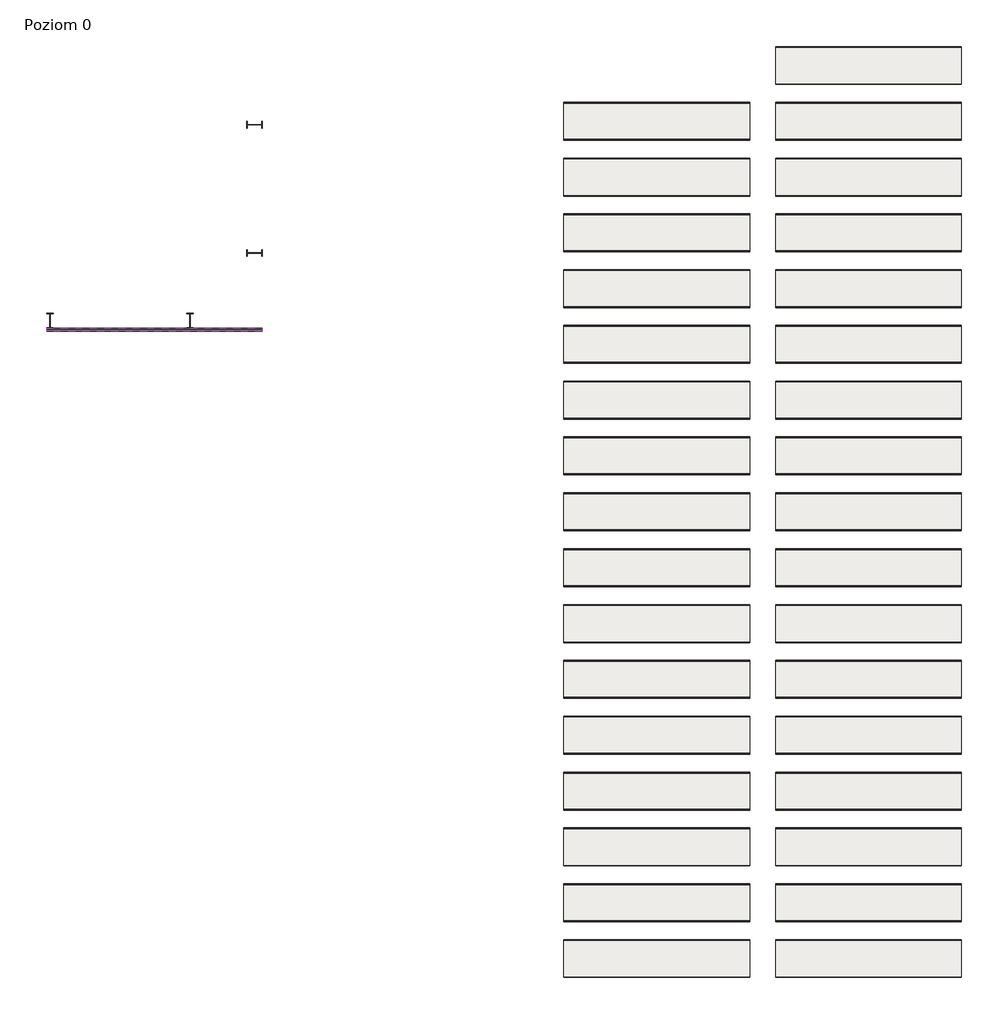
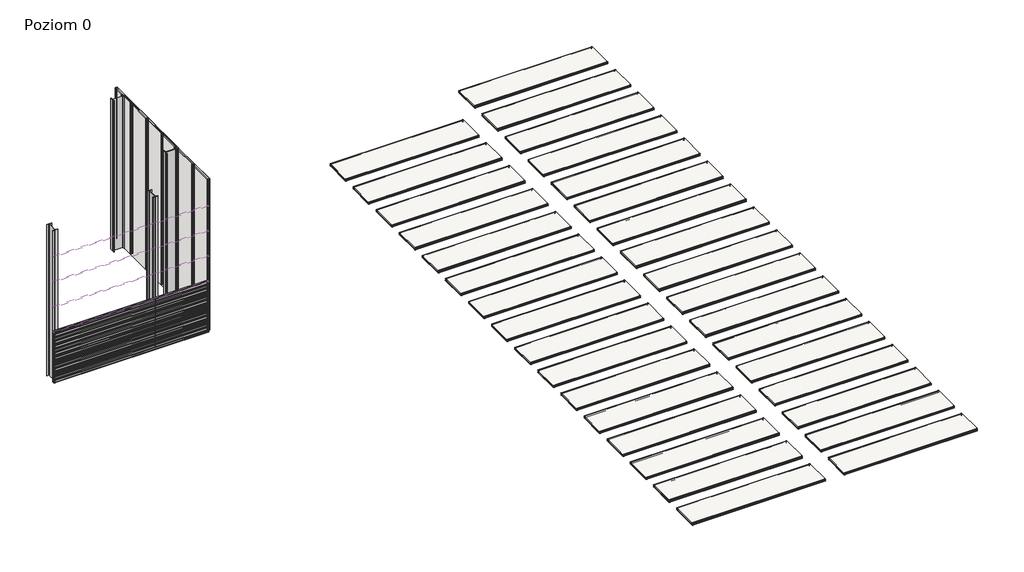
# One storey: 45 coverings, 4 columns.
"""IFC4 building model written with IfcOpenShell, lengths in millimetres."""

from ifc_helpers import new_model, si_unit, origin, place, context, project, spatial, transform, mapped, element, save
from components import standard1_standard_8d04f7a0, covering_0c5716a9, covering_6310a69d, covering_82a8a973, covering_66d02bca

model = new_model("IFC4")

# Units and contexts
model_context = context("Model", 3, world=origin())
ifc_project = project(units=[si_unit("LENGTHUNIT", "METRE", prefix="MILLI")], contexts=[model_context])

# Site, building, storey
site = spatial("IfcSite", under=ifc_project)
building = spatial("IfcBuilding", under=site)
storey = spatial("IfcBuildingStorey", under=building, Name="Poziom 0", Elevation=0.0)

# Columns
placement = place(None, origin())
standard1_standard_shape = standard1_standard_8d04f7a0(model_context)
element("IfcColumn", 1, ObjectType="Standard1 : Standard", at=placement, inside=storey, context=model_context, shape_type="MappedRepresentation", body=[
    mapped(standard1_standard_shape, transform((-652.7962443, -4043.6992704, 0.0), x_axis=(0.0, 1.0, 0.0), y_axis=(-1.0, 0.0, 0.0), z_axis=(0.0, 0.0, 1.0))),
])
element("IfcColumn", 2, ObjectType="Standard1 : Standard", at=placement, inside=storey, context=model_context, shape_type="MappedRepresentation", body=[
    mapped(standard1_standard_shape, transform((-652.7962443, -7493.6992704, 0.0), x_axis=(0.0, 1.0, 0.0), y_axis=(-1.0, 0.0, 0.0), z_axis=(0.0, 0.0, 1.0))),
])
element("IfcColumn", 3, ObjectType="Standard1 : Standard", at=placement, inside=storey, context=model_context, shape_type="MappedRepresentation", body=[
    mapped(standard1_standard_shape, transform((-6157.3962443, -9313.0059697, 0.0), x_axis=(1.0, 0.0, 0.0), y_axis=(0.0, 1.0, 0.0), z_axis=(0.0, 0.0, 1.0))),
])
element("IfcColumn", 4, ObjectType="Standard1 : Standard", at=placement, inside=storey, context=model_context, shape_type="MappedRepresentation", body=[
    mapped(standard1_standard_shape, transform((-2391.8962443, -9313.0059697, 0.0), x_axis=(1.0, 0.0, 0.0), y_axis=(0.0, 1.0, 0.0), z_axis=(0.0, 0.0, 1.0))),
])

# Coverings
covering_shape = covering_0c5716a9(model_context)
covering_2_shape = covering_6310a69d(model_context)
element("IfcCovering", 5, ObjectType="Płyta warstwowa ścienna SPW-S CORE WOOL (pojedynczy arkusz) : -", at=placement, inside=storey, context=model_context, shape_type="MappedRepresentation", body=[
    mapped(covering_shape, transform((-6246.8962443, -9598.9059697, 1035.0), x_axis=(0.0, 0.0, 1.0), y_axis=(-1.0, 0.0, 0.0), z_axis=(0.0, -1.0, 0.0))),
    mapped(covering_2_shape, transform((-6246.8962443, -9598.9059697, 1035.0), x_axis=(0.0, 0.0, 1.0), y_axis=(-1.0, 0.0, 0.0), z_axis=(0.0, -1.0, 0.0))),
])
element("IfcCovering", 6, ObjectType="Płyta warstwowa ścienna SPW-S CORE WOOL (pojedynczy arkusz) : -", at=placement, inside=storey, context=model_context, shape_type="MappedRepresentation", body=[
    mapped(covering_shape, transform((-6246.8962443, -9598.9059697, 2035.0), x_axis=(0.0, 0.0, 1.0), y_axis=(-1.0, 0.0, 0.0), z_axis=(0.0, -1.0, 0.0))),
    mapped(covering_2_shape, transform((-6246.8962443, -9598.9059697, 2035.0), x_axis=(0.0, 0.0, 1.0), y_axis=(-1.0, 0.0, 0.0), z_axis=(0.0, -1.0, 0.0))),
])
element("IfcCovering", 7, ObjectType="Płyta warstwowa ścienna SPW-S CORE WOOL (pojedynczy arkusz) : -", at=placement, inside=storey, context=model_context, shape_type="MappedRepresentation", body=[
    mapped(covering_shape, transform((-6246.8962443, -9598.9059697, 3035.0), x_axis=(0.0, 0.0, 1.0), y_axis=(-1.0, 0.0, 0.0), z_axis=(0.0, -1.0, 0.0))),
    mapped(covering_2_shape, transform((-6246.8962443, -9598.9059697, 3035.0), x_axis=(0.0, 0.0, 1.0), y_axis=(-1.0, 0.0, 0.0), z_axis=(0.0, -1.0, 0.0))),
])
element("IfcCovering", 8, ObjectType="Płyta warstwowa ścienna SPW-S CORE WOOL (pojedynczy arkusz) : -", at=placement, inside=storey, context=model_context, shape_type="MappedRepresentation", body=[
    mapped(covering_shape, transform((-6246.8962443, -9598.9059697, 4035.0), x_axis=(0.0, 0.0, 1.0), y_axis=(-1.0, 0.0, 0.0), z_axis=(0.0, -1.0, 0.0))),
    mapped(covering_2_shape, transform((-6246.8962443, -9598.9059697, 4035.0), x_axis=(0.0, 0.0, 1.0), y_axis=(-1.0, 0.0, 0.0), z_axis=(0.0, -1.0, 0.0))),
])
element("IfcCovering", 9, ObjectType="Płyta warstwowa ścienna SPW-S CORE WOOL (pojedynczy arkusz) : -", at=placement, inside=storey, context=model_context, shape_type="MappedRepresentation", body=[
    mapped(covering_shape, transform((-6246.8962443, -9598.9059697, 5035.0), x_axis=(0.0, 0.0, 1.0), y_axis=(-1.0, 0.0, 0.0), z_axis=(0.0, -1.0, 0.0))),
    mapped(covering_2_shape, transform((-6246.8962443, -9598.9059697, 5035.0), x_axis=(0.0, 0.0, 1.0), y_axis=(-1.0, 0.0, 0.0), z_axis=(0.0, -1.0, 0.0))),
])
element("IfcCovering", 10, ObjectType="Płyta warstwowa ścienna SPW-S CORE WOOL (pojedynczy arkusz) : -", at=placement, inside=storey, context=model_context, shape_type="MappedRepresentation", body=[
    mapped(covering_shape, transform((-6246.8962443, -9598.9059697, 6035.0), x_axis=(0.0, 0.0, 1.0), y_axis=(-1.0, 0.0, 0.0), z_axis=(0.0, -1.0, 0.0))),
    mapped(covering_2_shape, transform((-6246.8962443, -9598.9059697, 6035.0), x_axis=(0.0, 0.0, 1.0), y_axis=(-1.0, 0.0, 0.0), z_axis=(0.0, -1.0, 0.0))),
])
covering_3_shape = covering_82a8a973(model_context)
element("IfcCovering", 11, ObjectType="Płyta warstwowa ścienna SPW-S CORE WOOL (pojedynczy arkusz) : -", at=placement, inside=storey, context=model_context, shape_type="MappedRepresentation", body=[
    mapped(covering_3_shape, transform((12661.4641213, -4480.5974484, 100.0), x_axis=(0.0, -1.0, 0.0), y_axis=(1.0, 0.0, 0.0), z_axis=(0.0, 0.0, 1.0))),
])
element("IfcCovering", 12, ObjectType="Płyta warstwowa ścienna SPW-S CORE WOOL (pojedynczy arkusz) : -", at=placement, inside=storey, context=model_context, shape_type="MappedRepresentation", body=[
    mapped(covering_3_shape, transform((12661.4641213, -5980.5974484, 100.0), x_axis=(0.0, -1.0, 0.0), y_axis=(1.0, 0.0, 0.0), z_axis=(0.0, 0.0, 1.0))),
])
element("IfcCovering", 13, ObjectType="Płyta warstwowa ścienna SPW-S CORE WOOL (pojedynczy arkusz) : -", at=placement, inside=storey, context=model_context, shape_type="MappedRepresentation", body=[
    mapped(covering_3_shape, transform((12661.4641213, -7480.5974484, 100.0), x_axis=(0.0, -1.0, 0.0), y_axis=(1.0, 0.0, 0.0), z_axis=(0.0, 0.0, 1.0))),
])
element("IfcCovering", 14, ObjectType="Płyta warstwowa ścienna SPW-S CORE WOOL (pojedynczy arkusz) : -", at=placement, inside=storey, context=model_context, shape_type="MappedRepresentation", body=[
    mapped(covering_3_shape, transform((12661.4641213, -8980.5974484, 100.0), x_axis=(0.0, -1.0, 0.0), y_axis=(1.0, 0.0, 0.0), z_axis=(0.0, 0.0, 1.0))),
])
element("IfcCovering", 15, ObjectType="Płyta warstwowa ścienna SPW-S CORE WOOL (pojedynczy arkusz) : -", at=placement, inside=storey, context=model_context, shape_type="MappedRepresentation", body=[
    mapped(covering_3_shape, transform((12661.4641213, -10480.5974484, 100.0), x_axis=(0.0, -1.0, 0.0), y_axis=(1.0, 0.0, 0.0), z_axis=(0.0, 0.0, 1.0))),
])
element("IfcCovering", 16, ObjectType="Płyta warstwowa ścienna SPW-S CORE WOOL (pojedynczy arkusz) : -", at=placement, inside=storey, context=model_context, shape_type="MappedRepresentation", body=[
    mapped(covering_3_shape, transform((12661.4641213, -11980.5974484, 100.0), x_axis=(0.0, -1.0, 0.0), y_axis=(1.0, 0.0, 0.0), z_axis=(0.0, 0.0, 1.0))),
])
element("IfcCovering", 17, ObjectType="Płyta warstwowa ścienna SPW-S CORE WOOL (pojedynczy arkusz) : -", at=placement, inside=storey, context=model_context, shape_type="MappedRepresentation", body=[
    mapped(covering_3_shape, transform((12661.4641213, -13480.5974484, 100.0), x_axis=(0.0, -1.0, 0.0), y_axis=(1.0, 0.0, 0.0), z_axis=(0.0, 0.0, 1.0))),
])
element("IfcCovering", 18, ObjectType="Płyta warstwowa ścienna SPW-S CORE WOOL (pojedynczy arkusz) : -", at=placement, inside=storey, context=model_context, shape_type="MappedRepresentation", body=[
    mapped(covering_3_shape, transform((12661.4641213, -14980.5974484, 100.0), x_axis=(0.0, -1.0, 0.0), y_axis=(1.0, 0.0, 0.0), z_axis=(0.0, 0.0, 1.0))),
])
element("IfcCovering", 19, ObjectType="Płyta warstwowa ścienna SPW-S CORE WOOL (pojedynczy arkusz) : -", at=placement, inside=storey, context=model_context, shape_type="MappedRepresentation", body=[
    mapped(covering_3_shape, transform((12661.4641213, -16490.082932, 100.0), x_axis=(0.0, -1.0, 0.0), y_axis=(1.0, 0.0, 0.0), z_axis=(0.0, 0.0, 1.0))),
])
element("IfcCovering", 20, ObjectType="Płyta warstwowa ścienna SPW-S CORE WOOL (pojedynczy arkusz) : -", at=placement, inside=storey, context=model_context, shape_type="MappedRepresentation", body=[
    mapped(covering_3_shape, transform((12661.4641213, -17990.082932, 100.0), x_axis=(0.0, -1.0, 0.0), y_axis=(1.0, 0.0, 0.0), z_axis=(0.0, 0.0, 1.0))),
])
element("IfcCovering", 21, ObjectType="Płyta warstwowa ścienna SPW-S CORE WOOL (pojedynczy arkusz) : -", at=placement, inside=storey, context=model_context, shape_type="MappedRepresentation", body=[
    mapped(covering_3_shape, transform((12661.4641213, -19490.082932, 100.0), x_axis=(0.0, -1.0, 0.0), y_axis=(1.0, 0.0, 0.0), z_axis=(0.0, 0.0, 1.0))),
])
element("IfcCovering", 22, ObjectType="Płyta warstwowa ścienna SPW-S CORE WOOL (pojedynczy arkusz) : -", at=placement, inside=storey, context=model_context, shape_type="MappedRepresentation", body=[
    mapped(covering_3_shape, transform((12661.4641213, -20990.082932, 100.0), x_axis=(0.0, -1.0, 0.0), y_axis=(1.0, 0.0, 0.0), z_axis=(0.0, 0.0, 1.0))),
])
element("IfcCovering", 23, ObjectType="Płyta warstwowa ścienna SPW-S CORE WOOL (pojedynczy arkusz) : -", at=placement, inside=storey, context=model_context, shape_type="MappedRepresentation", body=[
    mapped(covering_3_shape, transform((12661.4641213, -22499.5684156, 100.0), x_axis=(0.0, -1.0, 0.0), y_axis=(1.0, 0.0, 0.0), z_axis=(0.0, 0.0, 1.0))),
])
element("IfcCovering", 24, ObjectType="Płyta warstwowa ścienna SPW-S CORE WOOL (pojedynczy arkusz) : -", at=placement, inside=storey, context=model_context, shape_type="MappedRepresentation", body=[
    mapped(covering_3_shape, transform((12661.4641213, -23999.5684156, 100.0), x_axis=(0.0, -1.0, 0.0), y_axis=(1.0, 0.0, 0.0), z_axis=(0.0, 0.0, 1.0))),
])
element("IfcCovering", 25, ObjectType="Płyta warstwowa ścienna SPW-S CORE WOOL (pojedynczy arkusz) : -", at=placement, inside=storey, context=model_context, shape_type="MappedRepresentation", body=[
    mapped(covering_3_shape, transform((12661.4641213, -25499.5684156, 100.0), x_axis=(0.0, -1.0, 0.0), y_axis=(1.0, 0.0, 0.0), z_axis=(0.0, 0.0, 1.0))),
])
element("IfcCovering", 26, ObjectType="Płyta warstwowa ścienna SPW-S CORE WOOL (pojedynczy arkusz) : -", at=placement, inside=storey, context=model_context, shape_type="MappedRepresentation", body=[
    mapped(covering_3_shape, transform((12661.4641213, -26999.5684156, 100.0), x_axis=(0.0, -1.0, 0.0), y_axis=(1.0, 0.0, 0.0), z_axis=(0.0, 0.0, 1.0))),
])
element("IfcCovering", 27, ObjectType="Płyta warstwowa ścienna SPW-S CORE WOOL (pojedynczy arkusz) : -", at=placement, inside=storey, context=model_context, shape_type="MappedRepresentation", body=[
    mapped(covering_3_shape, transform((18361.4641213, -4480.5974484, 100.0), x_axis=(0.0, -1.0, 0.0), y_axis=(1.0, 0.0, 0.0), z_axis=(0.0, 0.0, 1.0))),
])
element("IfcCovering", 28, ObjectType="Płyta warstwowa ścienna SPW-S CORE WOOL (pojedynczy arkusz) : -", at=placement, inside=storey, context=model_context, shape_type="MappedRepresentation", body=[
    mapped(covering_3_shape, transform((18361.4641213, -5980.5974484, 100.0), x_axis=(0.0, -1.0, 0.0), y_axis=(1.0, 0.0, 0.0), z_axis=(0.0, 0.0, 1.0))),
])
element("IfcCovering", 29, ObjectType="Płyta warstwowa ścienna SPW-S CORE WOOL (pojedynczy arkusz) : -", at=placement, inside=storey, context=model_context, shape_type="MappedRepresentation", body=[
    mapped(covering_3_shape, transform((18361.4641213, -7480.5974484, 100.0), x_axis=(0.0, -1.0, 0.0), y_axis=(1.0, 0.0, 0.0), z_axis=(0.0, 0.0, 1.0))),
])
element("IfcCovering", 30, ObjectType="Płyta warstwowa ścienna SPW-S CORE WOOL (pojedynczy arkusz) : -", at=placement, inside=storey, context=model_context, shape_type="MappedRepresentation", body=[
    mapped(covering_3_shape, transform((18361.4641213, -8980.5974484, 100.0), x_axis=(0.0, -1.0, 0.0), y_axis=(1.0, 0.0, 0.0), z_axis=(0.0, 0.0, 1.0))),
])
element("IfcCovering", 31, ObjectType="Płyta warstwowa ścienna SPW-S CORE WOOL (pojedynczy arkusz) : -", at=placement, inside=storey, context=model_context, shape_type="MappedRepresentation", body=[
    mapped(covering_3_shape, transform((18361.4641213, -10480.5974484, 100.0), x_axis=(0.0, -1.0, 0.0), y_axis=(1.0, 0.0, 0.0), z_axis=(0.0, 0.0, 1.0))),
])
element("IfcCovering", 32, ObjectType="Płyta warstwowa ścienna SPW-S CORE WOOL (pojedynczy arkusz) : -", at=placement, inside=storey, context=model_context, shape_type="MappedRepresentation", body=[
    mapped(covering_3_shape, transform((18361.4641213, -11980.5974484, 100.0), x_axis=(0.0, -1.0, 0.0), y_axis=(1.0, 0.0, 0.0), z_axis=(0.0, 0.0, 1.0))),
])
element("IfcCovering", 33, ObjectType="Płyta warstwowa ścienna SPW-S CORE WOOL (pojedynczy arkusz) : -", at=placement, inside=storey, context=model_context, shape_type="MappedRepresentation", body=[
    mapped(covering_3_shape, transform((18361.4641213, -13480.5974484, 100.0), x_axis=(0.0, -1.0, 0.0), y_axis=(1.0, 0.0, 0.0), z_axis=(0.0, 0.0, 1.0))),
])
element("IfcCovering", 34, ObjectType="Płyta warstwowa ścienna SPW-S CORE WOOL (pojedynczy arkusz) : -", at=placement, inside=storey, context=model_context, shape_type="MappedRepresentation", body=[
    mapped(covering_3_shape, transform((18361.4641213, -14980.5974484, 100.0), x_axis=(0.0, -1.0, 0.0), y_axis=(1.0, 0.0, 0.0), z_axis=(0.0, 0.0, 1.0))),
])
element("IfcCovering", 35, ObjectType="Płyta warstwowa ścienna SPW-S CORE WOOL (pojedynczy arkusz) : -", at=placement, inside=storey, context=model_context, shape_type="MappedRepresentation", body=[
    mapped(covering_3_shape, transform((18361.4641213, -16490.082932, 100.0), x_axis=(0.0, -1.0, 0.0), y_axis=(1.0, 0.0, 0.0), z_axis=(0.0, 0.0, 1.0))),
])
element("IfcCovering", 36, ObjectType="Płyta warstwowa ścienna SPW-S CORE WOOL (pojedynczy arkusz) : -", at=placement, inside=storey, context=model_context, shape_type="MappedRepresentation", body=[
    mapped(covering_3_shape, transform((18361.4641213, -17990.082932, 100.0), x_axis=(0.0, -1.0, 0.0), y_axis=(1.0, 0.0, 0.0), z_axis=(0.0, 0.0, 1.0))),
])
element("IfcCovering", 37, ObjectType="Płyta warstwowa ścienna SPW-S CORE WOOL (pojedynczy arkusz) : -", at=placement, inside=storey, context=model_context, shape_type="MappedRepresentation", body=[
    mapped(covering_3_shape, transform((18361.4641213, -19490.082932, 100.0), x_axis=(0.0, -1.0, 0.0), y_axis=(1.0, 0.0, 0.0), z_axis=(0.0, 0.0, 1.0))),
])
element("IfcCovering", 38, ObjectType="Płyta warstwowa ścienna SPW-S CORE WOOL (pojedynczy arkusz) : -", at=placement, inside=storey, context=model_context, shape_type="MappedRepresentation", body=[
    mapped(covering_3_shape, transform((18361.4641213, -20990.082932, 100.0), x_axis=(0.0, -1.0, 0.0), y_axis=(1.0, 0.0, 0.0), z_axis=(0.0, 0.0, 1.0))),
])
element("IfcCovering", 39, ObjectType="Płyta warstwowa ścienna SPW-S CORE WOOL (pojedynczy arkusz) : -", at=placement, inside=storey, context=model_context, shape_type="MappedRepresentation", body=[
    mapped(covering_3_shape, transform((18361.4641213, -22499.5684156, 100.0), x_axis=(0.0, -1.0, 0.0), y_axis=(1.0, 0.0, 0.0), z_axis=(0.0, 0.0, 1.0))),
])
element("IfcCovering", 40, ObjectType="Płyta warstwowa ścienna SPW-S CORE WOOL (pojedynczy arkusz) : -", at=placement, inside=storey, context=model_context, shape_type="MappedRepresentation", body=[
    mapped(covering_3_shape, transform((18361.4641213, -23999.5684156, 100.0), x_axis=(0.0, -1.0, 0.0), y_axis=(1.0, 0.0, 0.0), z_axis=(0.0, 0.0, 1.0))),
])
element("IfcCovering", 41, ObjectType="Płyta warstwowa ścienna SPW-S CORE WOOL (pojedynczy arkusz) : -", at=placement, inside=storey, context=model_context, shape_type="MappedRepresentation", body=[
    mapped(covering_3_shape, transform((18361.4641213, -25499.5684156, 100.0), x_axis=(0.0, -1.0, 0.0), y_axis=(1.0, 0.0, 0.0), z_axis=(0.0, 0.0, 1.0))),
])
element("IfcCovering", 42, ObjectType="Płyta warstwowa ścienna SPW-S CORE WOOL (pojedynczy arkusz) : -", at=placement, inside=storey, context=model_context, shape_type="MappedRepresentation", body=[
    mapped(covering_3_shape, transform((18361.4641213, -26999.5684156, 100.0), x_axis=(0.0, -1.0, 0.0), y_axis=(1.0, 0.0, 0.0), z_axis=(0.0, 0.0, 1.0))),
])
element("IfcCovering", 43, ObjectType="Płyta warstwowa ścienna SPW-S CORE WOOL (pojedynczy arkusz) : -", at=placement, inside=storey, context=model_context, shape_type="MappedRepresentation", body=[
    mapped(covering_3_shape, transform((18361.4641213, -2980.5974484, 100.0), x_axis=(0.0, -1.0, 0.0), y_axis=(1.0, 0.0, 0.0), z_axis=(0.0, 0.0, 1.0))),
])
covering_4_shape = covering_66d02bca(model_context)
element("IfcCovering", 44, ObjectType="Płyta warstwowa ścienna SPW-S CORE WOOL (pojedynczy arkusz) : -", at=placement, inside=storey, context=model_context, shape_type="MappedRepresentation", body=[
    mapped(covering_4_shape, transform((-366.8962443, -3483.9059698, 6000.0), x_axis=(0.0, 1.0, 0.0), y_axis=(0.0, 0.0, 1.0), z_axis=(1.0, 0.0, 0.0))),
])
element("IfcCovering", 45, ObjectType="Płyta warstwowa ścienna SPW-S CORE WOOL (pojedynczy arkusz) : -", at=placement, inside=storey, context=model_context, shape_type="MappedRepresentation", body=[
    mapped(covering_4_shape, transform((-366.8962443, -4483.90597, 6000.0), x_axis=(0.0, 1.0, 0.0), y_axis=(0.0, 0.0, 1.0), z_axis=(1.0, 0.0, 0.0))),
])
element("IfcCovering", 46, ObjectType="Płyta warstwowa ścienna SPW-S CORE WOOL (pojedynczy arkusz) : -", at=placement, inside=storey, context=model_context, shape_type="MappedRepresentation", body=[
    mapped(covering_4_shape, transform((-366.8962443, -5483.90597, 6000.0), x_axis=(0.0, 1.0, 0.0), y_axis=(0.0, 0.0, 1.0), z_axis=(1.0, 0.0, 0.0))),
])
element("IfcCovering", 47, ObjectType="Płyta warstwowa ścienna SPW-S CORE WOOL (pojedynczy arkusz) : -", at=placement, inside=storey, context=model_context, shape_type="MappedRepresentation", body=[
    mapped(covering_4_shape, transform((-366.8962443, -6483.90597, 6000.0), x_axis=(0.0, 1.0, 0.0), y_axis=(0.0, 0.0, 1.0), z_axis=(1.0, 0.0, 0.0))),
])
element("IfcCovering", 48, ObjectType="Płyta warstwowa ścienna SPW-S CORE WOOL (pojedynczy arkusz) : -", at=placement, inside=storey, context=model_context, shape_type="MappedRepresentation", body=[
    mapped(covering_4_shape, transform((-366.8962443, -7483.90597, 6000.0), x_axis=(0.0, 1.0, 0.0), y_axis=(0.0, 0.0, 1.0), z_axis=(1.0, 0.0, 0.0))),
])
element("IfcCovering", 49, ObjectType="Płyta warstwowa ścienna SPW-S CORE WOOL (pojedynczy arkusz) : -", at=placement, inside=storey, context=model_context, shape_type="MappedRepresentation", body=[
    mapped(covering_4_shape, transform((-366.8962443, -8483.9059698, 6000.0), x_axis=(0.0, 1.0, 0.0), y_axis=(0.0, 0.0, 1.0), z_axis=(1.0, 0.0, 0.0))),
])

save(model, "model.ifc")
